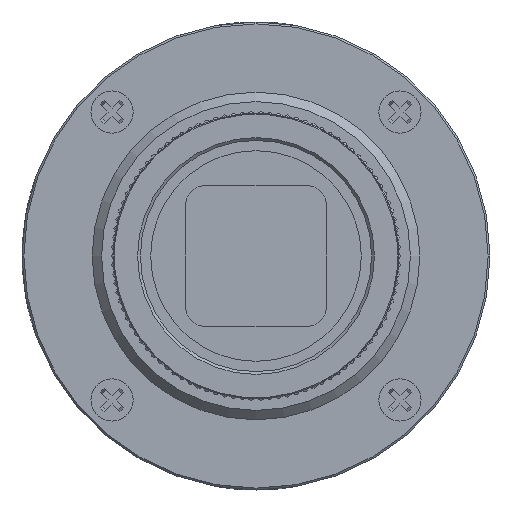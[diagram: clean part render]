
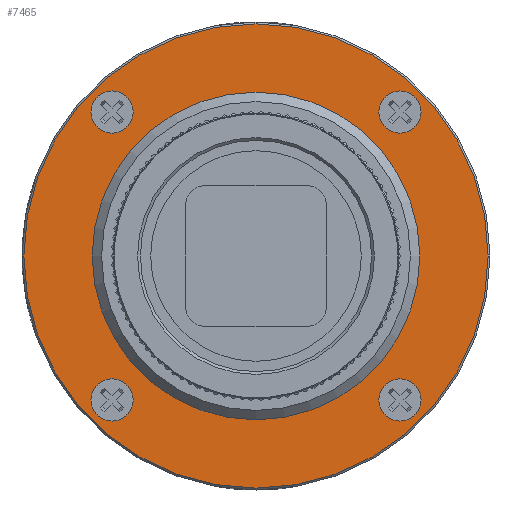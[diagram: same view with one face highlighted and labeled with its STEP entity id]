
A CAD part, front view. The second image highlights one B-rep face of the part: STEP entity #7465.
In plain terms, the highlighted planar face has unit normal (0, -1, 0).
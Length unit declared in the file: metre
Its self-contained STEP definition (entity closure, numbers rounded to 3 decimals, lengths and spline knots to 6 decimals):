
#7465=ADVANCED_FACE('8:363',(#19767,#19768,#19769,#19770,#19771,#19772),#19773,.F.);
#14415=EDGE_CURVE('8:11286',#29591,#29591,#29592,.T.);
#15167=EDGE_CURVE('8:11316',#30526,#30526,#30527,.T.);
#15425=EDGE_CURVE('8:11307',#30852,#30852,#30853,.T.);
#15427=EDGE_CURVE('8:11283',#30855,#30855,#30856,.T.);
#15429=EDGE_CURVE('8:11289',#30858,#30858,#30859,.T.);
#15431=EDGE_CURVE('8:11292',#30861,#30861,#30862,.T.);
#19767=FACE_OUTER_BOUND('',#35901,.T.);
#19768=FACE_BOUND('',#35902,.T.);
#19769=FACE_BOUND('',#35903,.T.);
#19770=FACE_BOUND('',#35904,.T.);
#19771=FACE_BOUND('',#35905,.T.);
#19772=FACE_BOUND('',#35906,.T.);
#19773=PLANE('',#35907);
#29591=VERTEX_POINT('',#51150);
#29592=CIRCLE('',#51151,0.00225);
#30526=VERTEX_POINT('',#52789);
#30527=CIRCLE('',#52790,0.0175);
#30852=VERTEX_POINT('',#53367);
#30853=CIRCLE('',#53368,0.0248);
#30855=VERTEX_POINT('',#53371);
#30856=CIRCLE('',#53372,0.00225);
#30858=VERTEX_POINT('',#53375);
#30859=CIRCLE('',#53376,0.00225);
#30861=VERTEX_POINT('',#53379);
#30862=CIRCLE('',#53380,0.00225);
#35901=EDGE_LOOP('',(#64595));
#35902=EDGE_LOOP('',(#64596));
#35903=EDGE_LOOP('',(#64597));
#35904=EDGE_LOOP('',(#64598));
#35905=EDGE_LOOP('',(#64599));
#35906=EDGE_LOOP('',(#64600));
#35907=AXIS2_PLACEMENT_3D('',#64601,#64602,#64603);
#51150=CARTESIAN_POINT('',(-0.01313,-0.022004,0.015825));
#51151=AXIS2_PLACEMENT_3D('',#74482,#74483,#74484);
#52789=CARTESIAN_POINT('',(-0.0175,-0.022004,0.031204));
#52790=AXIS2_PLACEMENT_3D('',#74954,#74955,#74956);
#53367=CARTESIAN_POINT('',(0.,-0.022004,0.056004));
#53368=AXIS2_PLACEMENT_3D('',#75134,#75135,#75136);
#53371=CARTESIAN_POINT('',(0.01763,-0.022004,0.015825));
#53372=AXIS2_PLACEMENT_3D('',#75137,#75138,#75139);
#53375=CARTESIAN_POINT('',(-0.01313,-0.022004,0.046584));
#53376=AXIS2_PLACEMENT_3D('',#75140,#75141,#75142);
#53379=CARTESIAN_POINT('',(0.01763,-0.022004,0.046584));
#53380=AXIS2_PLACEMENT_3D('',#75143,#75144,#75145);
#64595=ORIENTED_EDGE('',*,*,#15425,.T.);
#64596=ORIENTED_EDGE('',*,*,#15427,.F.);
#64597=ORIENTED_EDGE('',*,*,#14415,.F.);
#64598=ORIENTED_EDGE('',*,*,#15429,.F.);
#64599=ORIENTED_EDGE('',*,*,#15431,.F.);
#64600=ORIENTED_EDGE('',*,*,#15167,.T.);
#64601=CARTESIAN_POINT('',(0.0,-0.022004,0.031204));
#64602=DIRECTION('',(0.0,1.0,0.));
#64603=DIRECTION('',(0.0,0.,-1.0));
#74482=CARTESIAN_POINT('',(-0.01538,-0.022004,0.015825));
#74483=DIRECTION('',(0.0,-1.0,0.));
#74484=DIRECTION('',(1.0,0.0,0.0));
#74954=CARTESIAN_POINT('',(0.0,-0.022004,0.031204));
#74955=DIRECTION('',(0.0,1.0,0.));
#74956=DIRECTION('',(-1.0,0.0,0.0));
#75134=CARTESIAN_POINT('',(0.,-0.022004,0.031204));
#75135=DIRECTION('',(-0.0,-1.0,0.));
#75136=DIRECTION('',(0.0,0.,1.0));
#75137=CARTESIAN_POINT('',(0.01538,-0.022004,0.015825));
#75138=DIRECTION('',(0.0,-1.0,0.));
#75139=DIRECTION('',(1.0,0.0,0.0));
#75140=CARTESIAN_POINT('',(-0.01538,-0.022004,0.046584));
#75141=DIRECTION('',(0.0,-1.0,0.));
#75142=DIRECTION('',(1.0,0.0,0.0));
#75143=CARTESIAN_POINT('',(0.01538,-0.022004,0.046584));
#75144=DIRECTION('',(0.0,-1.0,0.));
#75145=DIRECTION('',(1.0,0.0,0.0));
